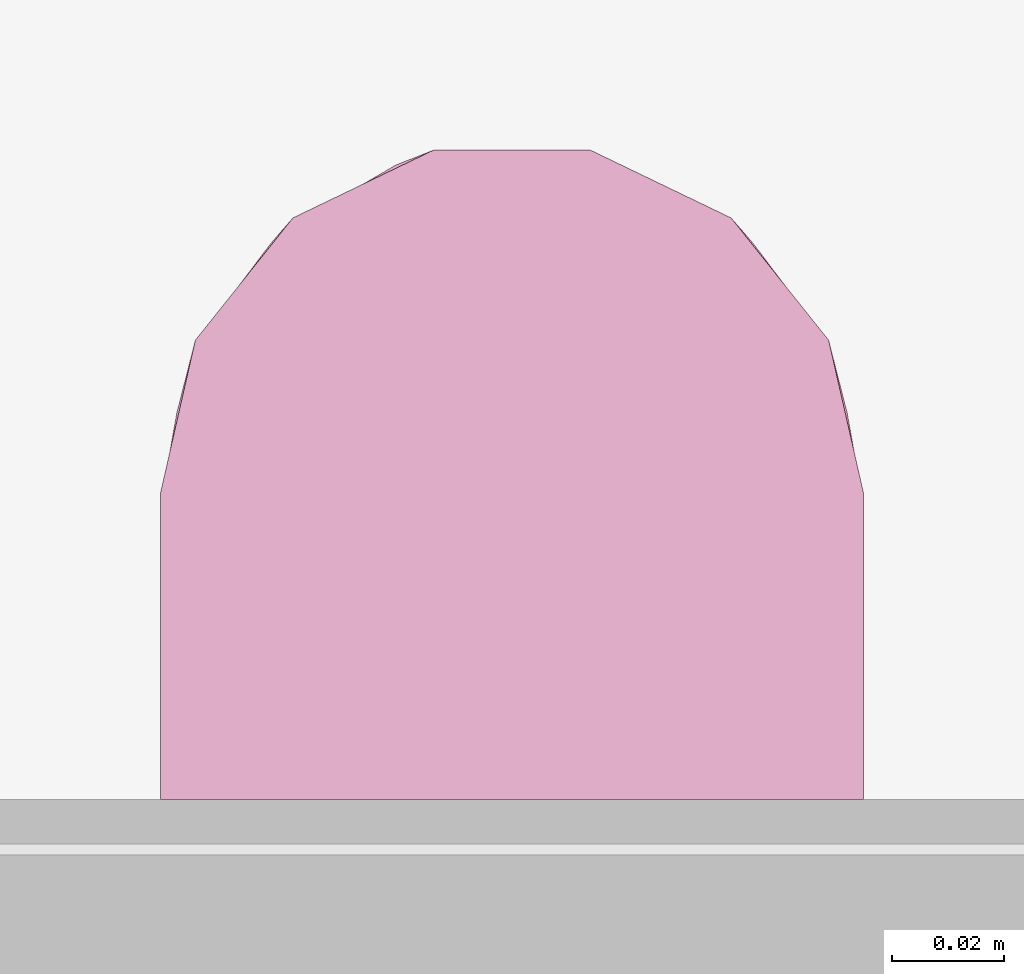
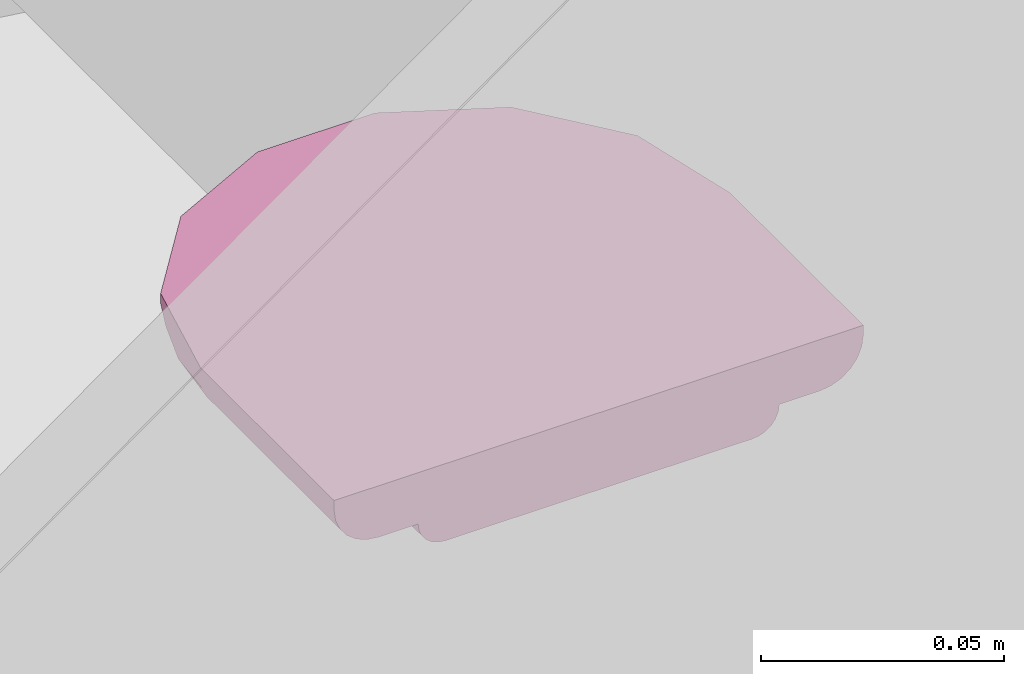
# One storey, part 45 of 48: 1 furniture element.
"""IFC4 building model written with IfcOpenShell, lengths in metres."""

from ifc_helpers import new_model, entity, si_unit, converted_unit, derived_unit, direction, frame, origin, place, context, subcontext, project, spatial, polygons, source, transform, mapped, material, type_object, type_shapes, element, save


model = new_model("IFC4")

# Units and contexts
model_context = context("Model", 3, precision=1e-05, world=origin(), true_north=direction((6.123031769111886e-17, 1.0)))
body_context = subcontext(model_context, "Body", "Model", "MODEL_VIEW")
ifc_project = project(units=[si_unit("LENGTHUNIT", "METRE"), si_unit("AREAUNIT", "SQUARE_METRE"), si_unit("VOLUMEUNIT", "CUBIC_METRE"), converted_unit("PLANEANGLEUNIT", "DEGREE", entity("IfcRatioMeasure", 0.017453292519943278), si_unit("PLANEANGLEUNIT", "RADIAN"), dimensions=[0, 0, 0, 0, 0, 0, 0]), si_unit("MASSUNIT", "GRAM", prefix="KILO"), derived_unit("MASSDENSITYUNIT", [(si_unit("MASSUNIT", "GRAM", prefix="KILO"), 1), (si_unit("LENGTHUNIT", "METRE"), -3)]), derived_unit("IONCONCENTRATIONUNIT", [(si_unit("MASSUNIT", "GRAM", prefix="KILO"), 1), (si_unit("LENGTHUNIT", "METRE"), -3)]), derived_unit("MOMENTOFINERTIAUNIT", [(si_unit("LENGTHUNIT", "METRE"), 4)]), si_unit("TIMEUNIT", "SECOND"), si_unit("FREQUENCYUNIT", "HERTZ"), si_unit("THERMODYNAMICTEMPERATUREUNIT", "DEGREE_CELSIUS"), derived_unit("THERMALTRANSMITTANCEUNIT", [(si_unit("MASSUNIT", "GRAM", prefix="KILO"), 1), (si_unit("THERMODYNAMICTEMPERATUREUNIT", "KELVIN"), -1), (si_unit("TIMEUNIT", "SECOND"), -3)]), derived_unit("THERMALCONDUCTANCEUNIT", [(si_unit("MASSUNIT", "GRAM", prefix="KILO"), 1), (si_unit("THERMODYNAMICTEMPERATUREUNIT", "KELVIN"), -1), (si_unit("TIMEUNIT", "SECOND"), -3), (si_unit("LENGTHUNIT", "METRE"), 1)]), derived_unit("VOLUMETRICFLOWRATEUNIT", [(si_unit("LENGTHUNIT", "METRE"), 3), (si_unit("TIMEUNIT", "SECOND"), -1)]), derived_unit("MASSFLOWRATEUNIT", [(si_unit("MASSUNIT", "GRAM", prefix="KILO"), 1), (si_unit("TIMEUNIT", "SECOND"), -1)]), derived_unit("ROTATIONALFREQUENCYUNIT", [(si_unit("TIMEUNIT", "SECOND"), -1)]), si_unit("ELECTRICCURRENTUNIT", "AMPERE"), si_unit("ELECTRICVOLTAGEUNIT", "VOLT"), si_unit("POWERUNIT", "WATT"), si_unit("FORCEUNIT", "NEWTON", prefix="KILO"), si_unit("ILLUMINANCEUNIT", "LUX"), si_unit("LUMINOUSFLUXUNIT", "LUMEN"), si_unit("LUMINOUSINTENSITYUNIT", "CANDELA"), derived_unit("USERDEFINED", [(si_unit("MASSUNIT", "GRAM", prefix="KILO"), -1), (si_unit("LENGTHUNIT", "METRE"), -2), (si_unit("TIMEUNIT", "SECOND"), 3), (si_unit("LUMINOUSFLUXUNIT", "LUMEN"), 1)]), derived_unit("USERDEFINED", [(si_unit("MASSUNIT", "GRAM", prefix="KILO"), 1), (si_unit("TIMEUNIT", "SECOND"), -3), (si_unit("LENGTHUNIT", "METRE"), 3), (si_unit("ELECTRICCURRENTUNIT", "AMPERE"), -2)]), derived_unit("SOUNDPOWERUNIT", [(si_unit("MASSUNIT", "GRAM", prefix="KILO"), 1), (si_unit("TIMEUNIT", "SECOND"), -3), (si_unit("LENGTHUNIT", "METRE"), 2)]), derived_unit("SOUNDPRESSUREUNIT", [(si_unit("MASSUNIT", "GRAM", prefix="KILO"), 1), (si_unit("LENGTHUNIT", "METRE"), -1), (si_unit("TIMEUNIT", "SECOND"), -2)]), derived_unit("LINEARVELOCITYUNIT", [(si_unit("LENGTHUNIT", "METRE"), 1), (si_unit("TIMEUNIT", "SECOND"), -1)]), si_unit("PRESSUREUNIT", "PASCAL"), derived_unit("USERDEFINED", [(si_unit("MASSUNIT", "GRAM", prefix="KILO"), 1), (si_unit("LENGTHUNIT", "METRE"), -2), (si_unit("TIMEUNIT", "SECOND"), -2)]), derived_unit("LINEARFORCEUNIT", [(si_unit("MASSUNIT", "GRAM", prefix="KILO"), 1), (si_unit("TIMEUNIT", "SECOND"), -2)]), derived_unit("PLANARFORCEUNIT", [(si_unit("MASSUNIT", "GRAM", prefix="KILO"), 1), (si_unit("LENGTHUNIT", "METRE"), -1), (si_unit("TIMEUNIT", "SECOND"), -2)]), derived_unit("SPECIFICHEATCAPACITYUNIT", [(si_unit("THERMODYNAMICTEMPERATUREUNIT", "KELVIN"), -1), (si_unit("LENGTHUNIT", "METRE"), 2), (si_unit("TIMEUNIT", "SECOND"), -2)]), derived_unit("HEATINGVALUEUNIT", [(si_unit("LENGTHUNIT", "METRE"), 2), (si_unit("TIMEUNIT", "SECOND"), -2)]), derived_unit("VAPORPERMEABILITYUNIT", [(si_unit("LENGTHUNIT", "METRE"), -1), (si_unit("TIMEUNIT", "SECOND"), 1)]), derived_unit("DYNAMICVISCOSITYUNIT", [(si_unit("MASSUNIT", "GRAM", prefix="KILO"), 1), (si_unit("TIMEUNIT", "SECOND"), -1), (si_unit("LENGTHUNIT", "METRE"), -1)]), derived_unit("THERMALEXPANSIONCOEFFICIENTUNIT", [(si_unit("THERMODYNAMICTEMPERATUREUNIT", "KELVIN"), -1)]), derived_unit("MODULUSOFELASTICITYUNIT", [(si_unit("MASSUNIT", "GRAM", prefix="KILO"), 1), (si_unit("LENGTHUNIT", "METRE"), -1), (si_unit("TIMEUNIT", "SECOND"), -2)]), derived_unit("ISOTHERMALMOISTURECAPACITYUNIT", [(si_unit("LENGTHUNIT", "METRE"), 3), (si_unit("MASSUNIT", "GRAM", prefix="KILO"), -1)]), derived_unit("MOISTUREDIFFUSIVITYUNIT", [(si_unit("TIMEUNIT", "SECOND"), -1), (si_unit("LENGTHUNIT", "METRE"), 2)])], contexts=[model_context])

# Site, building, storey, space
site_placement = place(None, origin())
site = spatial("IfcSite", under=ifc_project, at=site_placement, Name="Default", CompositionType="ELEMENT")
building_placement = place(site_placement, origin())
building = spatial("IfcBuilding", under=site, at=building_placement, CompositionType="ELEMENT")
storey_placement = place(building_placement, frame((0.0, 0.0, 9.40000000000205)))
storey = spatial("IfcBuildingStorey", under=building, at=storey_placement, Name="Nivel 5", CompositionType="ELEMENT", Elevation=9.40000000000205)
space_placement = place(storey_placement, origin())
space = spatial("IfcSpace", under=storey, at=space_placement, Name="261", CompositionType="ELEMENT", PredefinedType="SPACE")

# Furniture
ifc_material = material(Name="CERAMICA APARATOS", Category="Materials")
furniture_type = type_object("IfcFurnitureType", Name="E2050 - Jabonera:E2050 - Jabonera - Ceramica", AssemblyPlace="NOTDEFINED", PredefinedType="NOTDEFINED", material=ifc_material)
shared_shape = source(origin(), body_context, "Body", "Tessellation", [
    polygons([(-0.05252423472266, 0.012920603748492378, -3.986425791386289e-15), (-0.04300000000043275, 0.012920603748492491, -4.002540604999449e-15), (-0.04277987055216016, 0.014592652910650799, -4.026034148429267e-15), (-0.042134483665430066, 0.01615075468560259, -4.0486715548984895e-15), (-0.04110782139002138, 0.017488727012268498, -4.068910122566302e-15), (-0.03976984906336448, 0.018515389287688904, -4.08537062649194e-15), (-0.03821174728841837, 0.019160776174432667, -4.096931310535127e-15), (-0.0365396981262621, 0.019380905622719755, -4.102804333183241e-15), (0.03653969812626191, 0.019380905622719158, -4.22645320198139e-15), (0.03821174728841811, 0.019160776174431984, -4.226238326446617e-15), (0.03976984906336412, 0.018515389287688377, -4.219950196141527e-15), (0.041107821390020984, 0.01748872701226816, -4.20801733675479e-15), (0.04213448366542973, 0.01615075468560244, -4.191252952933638e-15), (0.042779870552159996, 0.01459265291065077, -4.170799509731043e-15), (0.04300000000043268, 0.012920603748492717, -4.14805087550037e-15), (0.05252423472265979, 0.012920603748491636, -4.164165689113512e-15), (0.055235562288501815, 0.012563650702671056, -4.163817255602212e-15), (0.05776211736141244, 0.011517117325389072, -4.153620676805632e-15), (0.059931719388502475, 0.009852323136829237, -4.134270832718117e-15), (0.06159651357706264, 0.007682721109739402, -4.107086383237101e-15), (0.06264304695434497, 0.0051561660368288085, -4.073919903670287e-15), (0.06300000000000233, 0.002444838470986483, -4.037031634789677e-15), (0.06300000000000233, 9.226522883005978e-15, -4.003224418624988e-15), (-0.0630000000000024, 8.82367512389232e-15, -3.79003495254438e-15), (-0.06300000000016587, 0.002444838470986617, -3.8238421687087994e-15), (-0.06264304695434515, 0.005156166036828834, -3.8619383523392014e-15), (-0.06159651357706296, 0.007682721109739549, -3.898646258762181e-15), (-0.059931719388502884, 0.00985232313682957, -3.931464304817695e-15), (-0.05776211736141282, 0.011517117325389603, -3.958155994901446e-15), (-0.05523556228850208, 0.012563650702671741, -3.97690233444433e-15), (-0.06300000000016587, 0.0024448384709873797, 0.05500000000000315), (-0.06264304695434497, 0.005156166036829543, 0.05500000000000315), (-0.06159651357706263, 0.007682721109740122, 0.05500000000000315), (-0.0599317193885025, 0.009852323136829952, 0.05500000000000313), (-0.05776211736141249, 0.011517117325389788, 0.05500000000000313), (-0.05523556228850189, 0.012563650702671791, 0.05500000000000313), (-0.052524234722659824, 0.012920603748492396, 0.05500000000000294), (-0.0630000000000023, 9.584537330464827e-15, 0.05500000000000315), (0.06300000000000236, 9.987488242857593e-15, 0.055000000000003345), (0.05676103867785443, 1.0345736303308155e-14, 0.08233467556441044), (0.03927985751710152, 1.0593134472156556e-14, 0.1042553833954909), (0.014018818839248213, 1.0680682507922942e-14, 0.11642045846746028), (-0.014018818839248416, 1.0591040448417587e-14, 0.11642045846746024), (-0.03927985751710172, 1.0341963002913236e-14, 0.10425538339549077), (-0.05676103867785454, 9.98278301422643e-15, 0.08233467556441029), (-0.04300000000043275, 0.012920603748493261, 0.055000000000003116), (-0.042779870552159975, 0.014592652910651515, 0.055000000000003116), (-0.04213448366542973, 0.016150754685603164, 0.055000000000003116), (-0.04110782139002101, 0.017488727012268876, 0.055000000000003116), (-0.03976984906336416, 0.018515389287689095, 0.055000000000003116), (-0.03821174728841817, 0.019160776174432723, 0.055000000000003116), (-0.03653969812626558, 0.019380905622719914, 0.055000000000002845), (-0.0473227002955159, 0.012920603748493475, 0.07778941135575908), (-0.0327483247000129, 0.012920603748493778, 0.09606510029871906), (-0.011687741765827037, 0.012920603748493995, 0.10620734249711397), (0.011687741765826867, 0.012920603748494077, 0.106207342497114), (0.03274832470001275, 0.012920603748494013, 0.09606510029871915), (0.04732270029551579, 0.012920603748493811, 0.0777894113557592), (0.05252423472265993, 0.012920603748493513, 0.05500000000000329), (0.04300000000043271, 0.012920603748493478, 0.055000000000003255), (0.03723909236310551, 0.012920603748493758, 0.07650000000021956), (0.021500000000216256, 0.012920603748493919, 0.09223909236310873), (-7.613909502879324e-17, 0.012920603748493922, 0.09800000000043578), (-0.021500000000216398, 0.012920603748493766, 0.09223909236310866), (-0.03723909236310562, 0.012920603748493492, 0.07650000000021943), (-0.056761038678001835, 0.002444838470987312, 0.08233467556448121), (-0.03927985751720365, 0.002444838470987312, 0.10425538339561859), (-0.01401881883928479, 0.002444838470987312, 0.11642045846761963), (0.014018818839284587, 0.002444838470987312, 0.11642045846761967), (0.039279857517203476, 0.002444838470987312, 0.10425538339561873), (0.05676103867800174, 0.002444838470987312, 0.08233467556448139), (0.06300000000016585, 0.002444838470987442, 0.055000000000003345), (0.06264304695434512, 0.005156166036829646, 0.055000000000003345), (0.06159651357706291, 0.007682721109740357, 0.05500000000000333), (0.059931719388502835, 0.009852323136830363, 0.055000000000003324), (0.05776211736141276, 0.011517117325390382, 0.05500000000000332), (0.05523556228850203, 0.012563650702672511, 0.05500000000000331), (-0.05541537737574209, 0.00994065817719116, 0.0775884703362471), (0.05541537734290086, 0.009940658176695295, 0.07758847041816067), (-0.060688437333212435, 0.002444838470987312, 0.06512761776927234), (0.060688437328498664, 0.002444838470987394, 0.06512761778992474), (-0.06009482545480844, 0.0073735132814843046, 0.06927989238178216), (0.06009482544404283, 0.007373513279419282, 0.06927989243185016), (1.1920939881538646e-10, 0.009647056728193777, 0.11513144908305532), (-0.02296028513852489, 0.010016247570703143, 0.11017763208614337), (0.022960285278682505, 0.010016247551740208, 0.11017763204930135), (-0.0423486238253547, 0.010229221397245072, 0.09684448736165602), (0.04234862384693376, 0.010229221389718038, 0.09684448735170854), (-0.049923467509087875, 0.012920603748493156, 0.06639470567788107), (0.04992346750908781, 0.012920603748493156, 0.06639470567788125), (-0.05703578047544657, 0.0065083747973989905, 0.07976375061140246), (-0.048020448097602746, 0.002444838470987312, 0.0932950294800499), (-0.05024267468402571, 0.007894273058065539, 0.09041697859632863), (-0.04930529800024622, 0.01152280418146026, 0.08507175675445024), (-0.04320181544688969, 0.006488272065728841, 0.09973226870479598), (-0.026649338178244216, 0.002444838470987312, 0.11033792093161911), (-0.033651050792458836, 0.008354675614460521, 0.10608663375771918), (-0.033585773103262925, 0.011709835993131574, 0.10156463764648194), (-0.04003551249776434, 0.012920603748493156, 0.08692725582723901), (-0.020861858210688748, 0.0061859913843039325, 0.11371301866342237), (-0.008798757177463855, 0.006760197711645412, 0.11644307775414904), (-1.0151879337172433e-16, 0.002444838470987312, 0.11642045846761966), (-0.011582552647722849, 0.010395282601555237, 0.1132044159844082), (-8.671396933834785e-17, 0.012920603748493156, 0.10620734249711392), (0.005858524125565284, 0.012067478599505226, 0.1113613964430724), (0.011714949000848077, 0.009815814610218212, 0.11381264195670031), (0.01809843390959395, 0.006648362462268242, 0.11442472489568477), (0.026649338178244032, 0.002444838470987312, 0.11033792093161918), (0.033532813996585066, 0.007293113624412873, 0.10692394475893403), (0.03311804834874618, 0.010897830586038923, 0.10347984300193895), (0.05703578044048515, 0.006508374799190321, 0.07976375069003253), (0.0480204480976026, 0.002444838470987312, 0.09329502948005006), (0.050242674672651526, 0.007894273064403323, 0.09041697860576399), (0.04930529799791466, 0.01152280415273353, 0.08507175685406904), (0.043201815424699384, 0.006488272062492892, 0.09973226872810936), (-0.022218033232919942, 0.012920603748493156, 0.10113622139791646), (0.02221803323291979, 0.012920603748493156, 0.10113622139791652), (0.04003551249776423, 0.012920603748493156, 0.08692725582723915), (-0.05917785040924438, 0.002444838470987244, 0.07174593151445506), (-0.05988051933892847, 9.58464048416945e-15, 0.06866733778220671), (-0.04802044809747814, 9.584640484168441e-15, 0.09329502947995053), (-0.02664933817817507, 9.584640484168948e-15, 0.11033792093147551), (-1.0151879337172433e-16, 9.584640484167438e-15, 0.11642045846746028), (0.026649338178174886, 9.584640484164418e-15, 0.1103379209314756), (0.048020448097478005, 9.584640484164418e-15, 0.09329502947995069), (0.05917785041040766, 9.584600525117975e-15, 0.07174593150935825), (0.05988051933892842, 0.002444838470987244, 0.06866733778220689), (0.04277987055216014, 0.014592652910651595, 0.05500000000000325), (0.04213448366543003, 0.01615075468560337, 0.05500000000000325), (0.041107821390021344, 0.01748872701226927, 0.05500000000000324), (0.03976984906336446, 0.01851538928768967, 0.055000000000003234), (0.03821174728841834, 0.01916077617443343, 0.05500000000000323), (0.036539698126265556, 0.019380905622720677, 0.05500000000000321), (0.035294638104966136, 0.019380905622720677, 0.06445716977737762), (0.03164430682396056, 0.019380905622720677, 0.07326984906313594), (0.025837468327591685, 0.019380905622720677, 0.08083746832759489), (0.018269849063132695, 0.019380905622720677, 0.08664430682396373), (0.00945716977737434, 0.019380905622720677, 0.09029463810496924), (-6.388409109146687e-17, 0.019380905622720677, 0.09153969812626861), (-0.009457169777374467, 0.019380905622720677, 0.09029463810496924), (-0.018269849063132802, 0.019380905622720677, 0.08664430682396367), (-0.025837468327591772, 0.019380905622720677, 0.08083746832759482), (-0.031644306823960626, 0.019380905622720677, 0.07326984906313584), (-0.03529463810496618, 0.019380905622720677, 0.0644571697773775), (-0.039354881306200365, 0.01681536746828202, 0.06876876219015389), (0.039354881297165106, 0.016815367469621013, 0.0687687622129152), (-0.03969397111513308, 0.012920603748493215, 0.06733826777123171), (0.03969397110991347, 0.012920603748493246, 0.06733826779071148), (-0.029990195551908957, 0.017045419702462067, 0.0837021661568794), (0.02999019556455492, 0.017045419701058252, 0.08370216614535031), (-0.014068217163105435, 0.017293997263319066, 0.09382432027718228), (0.0140682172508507, 0.01729399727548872, 0.0938243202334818), (-0.0414288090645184, 0.016256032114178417, 0.06233060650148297), (0.04142880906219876, 0.016256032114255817, 0.06233060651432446), (-0.03509474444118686, 0.018469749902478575, 0.07387308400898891), (0.03509474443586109, 0.018469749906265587, 0.07387308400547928), (-0.022452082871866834, 0.018468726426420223, 0.08792225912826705), (-0.004758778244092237, 0.018468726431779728, 0.09456419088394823), (0.022452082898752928, 0.018468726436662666, 0.08792225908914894), (-0.010750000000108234, 0.012920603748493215, 0.09511954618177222), (-0.01649269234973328, 0.014958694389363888, 0.09435387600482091), (-0.02403627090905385, 0.015817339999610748, 0.08982450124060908), (-0.029369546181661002, 0.012920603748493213, 0.08436954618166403), (-0.005391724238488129, 0.015874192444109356, 0.09694013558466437), (0.003951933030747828, 0.017201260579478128, 0.09618908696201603), (-0.029447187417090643, 0.018870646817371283, 0.08065629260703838), (0.029447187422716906, 0.018870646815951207, 0.08065629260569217), (0.004753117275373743, 0.01891047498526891, 0.09366878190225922), (0.01247662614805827, 0.01887114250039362, 0.09200843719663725), (-0.013974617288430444, 0.018938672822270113, 0.09129118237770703), (0.021812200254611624, 0.016118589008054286, 0.09107073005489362), (-0.035603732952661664, 0.016145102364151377, 0.07753804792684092), (0.03560373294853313, 0.01614510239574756, 0.07753804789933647), (-0.0379779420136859, 0.01877351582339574, 0.06500795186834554), (0.03797794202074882, 0.018773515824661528, 0.06500795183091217), (0.029369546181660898, 0.012920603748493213, 0.08436954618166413), (0.010750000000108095, 0.012920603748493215, 0.09511954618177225)], [[[25, 26, 27, 28, 29, 30, 1, 2, 3, 4, 5, 6, 7, 8, 9, 10, 11, 12, 13, 14, 15, 16, 17, 18, 19, 20, 21, 22, 23, 24]], [[36, 37, 1, 30]], [[51, 52, 8, 7]], [[35, 36, 30, 29]], [[50, 51, 7, 6]], [[28, 34, 35, 29]], [[5, 49, 50, 6]], [[32, 33, 27, 26]], [[4, 3, 47, 48]], [[31, 32, 26, 25]], [[2, 46, 47, 3]], [[27, 33, 34, 28]], [[4, 48, 49, 5]], [[38, 31, 25, 24]], [[23, 39, 126, 40, 125, 41, 124, 42, 123, 43, 122, 44, 121, 45, 120, 38, 24]], [[59, 16, 15, 60, 148, 61, 176, 62, 177, 63, 160, 64, 163, 65, 147, 46, 2, 1, 37, 89, 53, 99, 54, 116, 55, 104, 56, 117, 57, 118, 58, 90]], [[141, 140, 139, 138, 137, 136, 135, 134, 133, 9, 8, 52, 144, 143, 142]], [[36, 35, 78]], [[79, 77, 90]], [[93, 87, 94]], [[89, 94, 53]], [[32, 31, 80]], [[80, 82, 32]], [[87, 99, 94]], [[81, 72, 73]], [[86, 107, 109]], [[54, 98, 116]], [[33, 32, 82]], [[92, 95, 93]], [[93, 94, 78]], [[82, 35, 34]], [[66, 92, 91]], [[87, 95, 97]], [[33, 82, 34]], [[82, 78, 35]], [[78, 82, 91]], [[82, 80, 119, 66]], [[91, 82, 66]], [[88, 115, 113]], [[103, 104, 55]], [[87, 93, 95]], [[106, 86, 105]], [[78, 91, 93]], [[97, 85, 98]], [[110, 118, 57]], [[79, 76, 77]], [[109, 88, 110]], [[97, 95, 67]], [[79, 90, 114]], [[84, 106, 105]], [[75, 76, 83]], [[78, 89, 36]], [[108, 107, 69]], [[79, 113, 111]], [[77, 59, 90]], [[111, 83, 79]], [[100, 68, 101]], [[76, 79, 83]], [[83, 71, 127, 81]], [[101, 102, 84]], [[73, 83, 81]], [[75, 83, 74]], [[89, 37, 36]], [[84, 103, 101]], [[103, 84, 105]], [[113, 79, 114]], [[74, 83, 73]], [[93, 91, 92]], [[78, 94, 89]], [[98, 99, 87]], [[96, 68, 100]], [[67, 95, 92]], [[97, 98, 87]], [[85, 97, 100]], [[96, 97, 67]], [[94, 99, 53]], [[55, 116, 103]], [[96, 100, 97]], [[99, 98, 54]], [[100, 101, 103]], [[85, 100, 103]], [[116, 85, 103]], [[84, 107, 106]], [[101, 68, 102]], [[103, 105, 104]], [[117, 110, 57]], [[56, 104, 105]], [[56, 105, 86]], [[106, 107, 86]], [[84, 102, 107]], [[109, 107, 108]], [[69, 107, 102]], [[70, 109, 108]], [[86, 109, 110]], [[112, 71, 111]], [[117, 86, 110]], [[118, 114, 58]], [[111, 71, 83]], [[113, 114, 88]], [[88, 109, 115]], [[113, 112, 111]], [[70, 112, 115]], [[118, 88, 114]], [[58, 114, 90]], [[113, 115, 112]], [[70, 115, 109]], [[85, 116, 98]], [[117, 56, 86]], [[88, 118, 110]], [[119, 80, 31, 38, 120, 45, 66]], [[67, 92, 66, 45, 121, 44]], [[127, 71, 40, 126, 39, 72, 81]], [[122, 43, 68, 96, 67, 44]], [[69, 102, 68, 43, 123, 42]], [[108, 69, 42, 124, 41, 70]], [[125, 40, 71, 112, 70, 41]], [[174, 144, 52]], [[168, 138, 139]], [[175, 156, 146]], [[174, 155, 144]], [[157, 141, 142]], [[162, 161, 151]], [[157, 170, 141]], [[47, 46, 147]], [[174, 145, 155]], [[134, 135, 156]], [[149, 157, 166]], [[170, 140, 141]], [[65, 145, 147]], [[150, 176, 173]], [[153, 48, 47]], [[162, 64, 161]], [[50, 49, 153]], [[164, 63, 165]], [[142, 143, 166]], [[157, 162, 151]], [[156, 150, 173]], [[175, 146, 154]], [[148, 60, 128]], [[153, 174, 50]], [[136, 159, 167]], [[51, 50, 174]], [[158, 170, 151]], [[164, 158, 151]], [[169, 165, 152]], [[146, 156, 173]], [[149, 155, 172]], [[137, 159, 136]], [[167, 135, 136]], [[154, 146, 148]], [[175, 134, 156]], [[145, 172, 155]], [[129, 154, 128]], [[169, 152, 159]], [[143, 155, 166]], [[132, 133, 175]], [[130, 131, 154]], [[153, 147, 145]], [[48, 153, 49]], [[171, 159, 152]], [[129, 130, 154]], [[131, 175, 154]], [[149, 163, 162]], [[177, 62, 171]], [[61, 148, 146]], [[139, 140, 158]], [[160, 161, 64]], [[128, 154, 148]], [[164, 161, 160]], [[143, 144, 155]], [[147, 153, 47]], [[169, 168, 165]], [[150, 156, 167]], [[171, 176, 150]], [[151, 161, 164]], [[163, 172, 65]], [[149, 162, 157]], [[163, 64, 162]], [[158, 164, 165]], [[63, 164, 160]], [[168, 139, 158]], [[165, 177, 152]], [[142, 166, 157]], [[149, 166, 155]], [[135, 167, 156]], [[150, 167, 159]], [[169, 138, 168]], [[165, 168, 158]], [[169, 137, 138]], [[137, 169, 159]], [[140, 170, 158]], [[151, 170, 157]], [[159, 171, 150]], [[177, 165, 63]], [[149, 172, 163]], [[172, 145, 65]], [[173, 61, 146]], [[152, 177, 171]], [[153, 145, 174]], [[51, 174, 52]], [[134, 175, 133]], [[132, 175, 131]], [[61, 173, 176]], [[176, 171, 62]], [[17, 16, 59, 77]], [[10, 9, 133, 132]], [[18, 17, 77, 76]], [[11, 10, 132, 131]], [[75, 19, 18, 76]], [[130, 12, 11, 131]], [[21, 20, 74, 73]], [[129, 128, 14, 13]], [[22, 21, 73, 72]], [[60, 15, 14, 128]], [[74, 20, 19, 75]], [[129, 13, 12, 130]], [[22, 72, 39, 23]]], closed=True),
])
type_shapes(furniture_type, [shared_shape])
furniture_placement = place(space_placement, frame((3.1975010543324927, -6.355000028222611, 1.2499999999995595), z_axis=(0.0, 1.0, 0.0), x_axis=(1.0, 0.0, 0.0)))
element("IfcFurniture", 1, at=furniture_placement, inside=space, type_object=furniture_type, material=ifc_material, Name="E2050 - Jabonera:E2050 - Jabonera - Ceramica", ObjectType="E2050 - Jabonera:E2050 - Jabonera - Ceramica", PredefinedType="NOTDEFINED", context=body_context, shape_type="MappedRepresentation", body=[
    mapped(shared_shape, transform((0.0, 0.0, 0.0), scale=1.0)),
])

save(model, "model.ifc")
